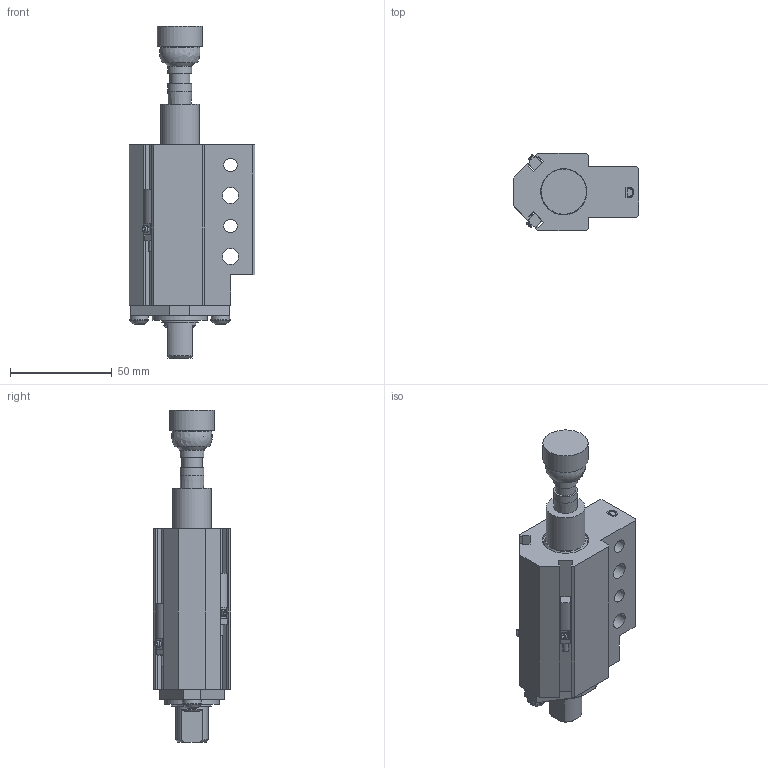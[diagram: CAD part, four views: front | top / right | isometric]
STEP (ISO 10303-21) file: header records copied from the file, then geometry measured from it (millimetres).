
FILE_DESCRIPTION(/* description */ ('MINI PASS THRU GROUND BLOCK'),/* implementation_level */ '2;1');
FILE_NAME(/* name */ 'C:\Vault Workspace\CAD\Welker\Cylinders\GBM\GBMEDL3.stp',/* time_stamp */ '2021-06-25T07:33:48-04:00',/* author */ ('KPL'),/* organization */ (''),/* preprocessor_version */ 'ST-DEVELOPER v18.1',/* originating_system */ 'Autodesk Inventor 2020',/* authorisation */ '');
FILE_SCHEMA (('AUTOMOTIVE_DESIGN { 1 0 10303 214 3 1 1 }'));
Products named in the file (11): GBML01; 91590A126; 96100A152; L3 Sensor 1; M5X0.8-10 BHCS; NL5; GBME01D; GBME02; GBME04; SN-147; AN-05U2145
Assembly tree (13 placements, depth 2):
  GBML01
    91590A126
    96100A152
    L3 Sensor 1  x2
    M5X0.8-10 BHCS  x2
    NL5  x2
    GBME01D
    GBME02
    GBME04
    SN-147
    AN-05U2145
Bounding box: 62 x 38.1 x 163.5 mm (x, y, z)
Volume: 135172.7 mm3; surface area: 49436 mm2
Topology: 13 solids, 13 shells, 440 faces, 1207 edges, 808 vertices
Faces by surface type: plane 307, cylinder 97, cone 18, bspline 10, torus 4, sphere 4
Full cylindrical faces by diameter (mm): 1.194 x2, 2.9 x2, 4.134 x2, 5 x2, 5.4 x2, 5.5 x2, 6.647 x3, 8 x2, 9 x2, 9.5 x2, 10 x1, 11.76 x2, 14.935 x1, 15.875 x3, 16.383 x1, 19.05 x1, 19.177 x1, 22.225 x3, 22.784 x1, 24.613 x1, 25.654 x1, 25.705 x1, 26.987 x1, 28.591 x1, 28.667 x1
Entity records: 10130 total; most frequent: CARTESIAN_POINT 1860, DIRECTION 1645, ORIENTED_EDGE 1594, EDGE_CURVE 797, AXIS2_PLACEMENT_3D 568, VERTEX_POINT 545, LINE 509, VECTOR 509
